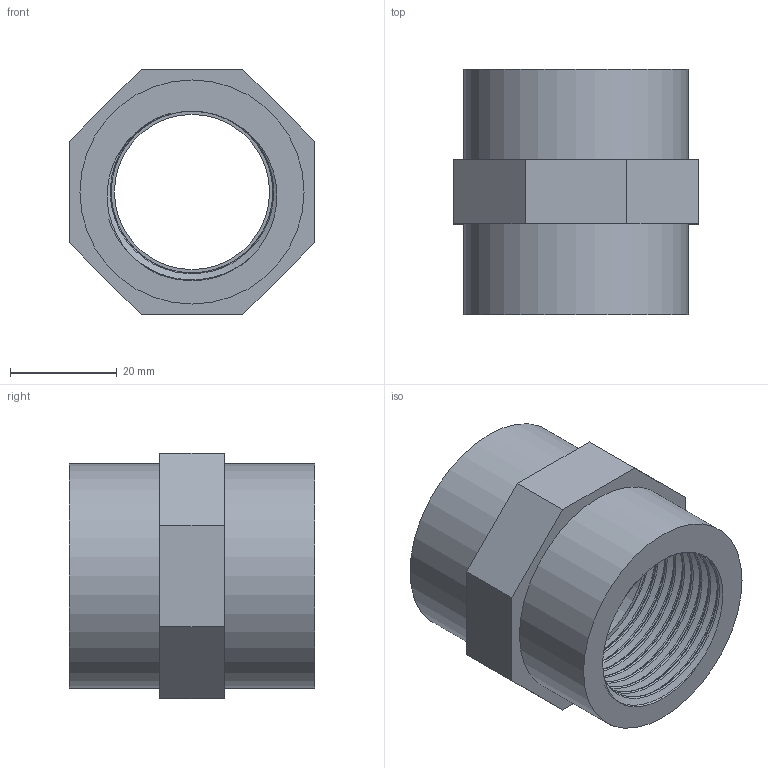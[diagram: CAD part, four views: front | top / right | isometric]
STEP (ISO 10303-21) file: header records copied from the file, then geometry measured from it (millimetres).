
FILE_DESCRIPTION(/* description */ ('PVC manicotto filettato BSP femmina'),/* implementation_level */ '2;1');
FILE_NAME(/* name */ 'C:\Users\POLYPIPE\Desktop\DATASET INVENTOR\LIBRERIA EFFAST\RACCORDI 3DxWEB\RER\3D_RERMAE\3D_RERMAE032D.stp',/* time_stamp */ '2018-01-19T16:37:12+01:00',/* author */ ('POLYPIPE'),/* organization */ ('Polypipe Italia'),/* preprocessor_version */ 'ST-DEVELOPER v16.1',/* originating_system */ 'Autodesk Inventor 2016',/* authorisation */ '');
FILE_SCHEMA (('CONFIG_CONTROL_DESIGN'));
Length unit declared in the file: millimetre
Products named in the file (1): 3D_RERMAE
Bounding box: 46 x 46 x 46 mm (x, y, z)
Volume: 32628.8 mm3; surface area: 15730.9 mm2
Topology: 1 solids, 1 shells, 27 faces, 63 edges, 42 vertices
Faces by surface type: plane 14, bspline 10, cylinder 3
Full cylindrical faces by diameter (mm): 29.091 x1, 42 x2
Entity records: 7430 total; most frequent: CARTESIAN_POINT 6874, ORIENTED_EDGE 120, DIRECTION 72, EDGE_CURVE 60, VERTEX_POINT 42, EDGE_LOOP 36, B_SPLINE_CURVE_WITH_KNOTS 30, FACE_OUTER_BOUND 27
